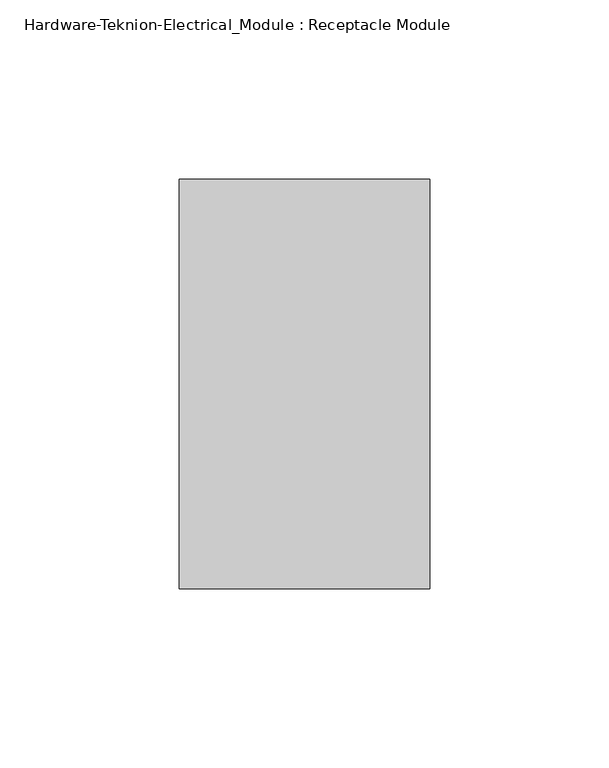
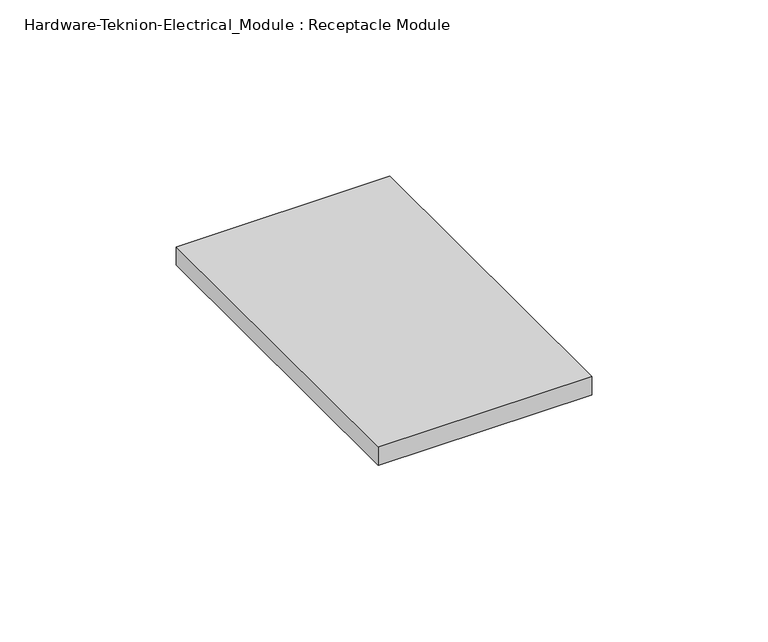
"""IFC4 building model written with IfcOpenShell, lengths in millimetres: proxy geometry, Hardware-Teknion-Electrical_Module : Receptacle Module."""

from ifc_helpers import new_model, si_unit, origin, origin_with_axes, place, context, project, spatial, polyline, outline, extrude, source, transform, mapped, element, save


def hardware_teknion_electrical_module_receptacle_module_9a6c8bcf(model_context):
    return source(origin(), model_context, "Body", "SweptSolid", [
        extrude(outline(polyline([(34.925, -57.15), (-34.925, -57.15), (-34.925, 57.15), (34.925, 57.15), (34.925, -57.15)])), origin_with_axes(), (0.0, 0.0, 1.0), 6.35),
    ])


if __name__ == "__main__":
    model = new_model("IFC4")
    model_context = context("Model", 3, world=origin())
    ifc_project = project(units=[si_unit("LENGTHUNIT", "METRE", prefix="MILLI")], contexts=[model_context])
    site = spatial("IfcSite", under=ifc_project)
    building = spatial("IfcBuilding", under=site)
    placement = place(None, origin())
    hardware_teknion_electrical_module_receptacle_module_shape = hardware_teknion_electrical_module_receptacle_module_9a6c8bcf(model_context)
    element("IfcBuildingElementProxy", 1, Name="Hardware-Teknion-Electrical_Module : Receptacle Module", ObjectType="Hardware-Teknion-Electrical_Module : Receptacle Module", at=placement, inside=building, context=model_context, shape_type="MappedRepresentation", body=[
        mapped(hardware_teknion_electrical_module_receptacle_module_shape, transform((0.0, 0.0, 0.0), x_axis=(1.0, 0.0, 0.0), y_axis=(0.0, 1.0, 0.0), z_axis=(0.0, 0.0, 1.0))),
    ])
    save(model, "model.ifc")
